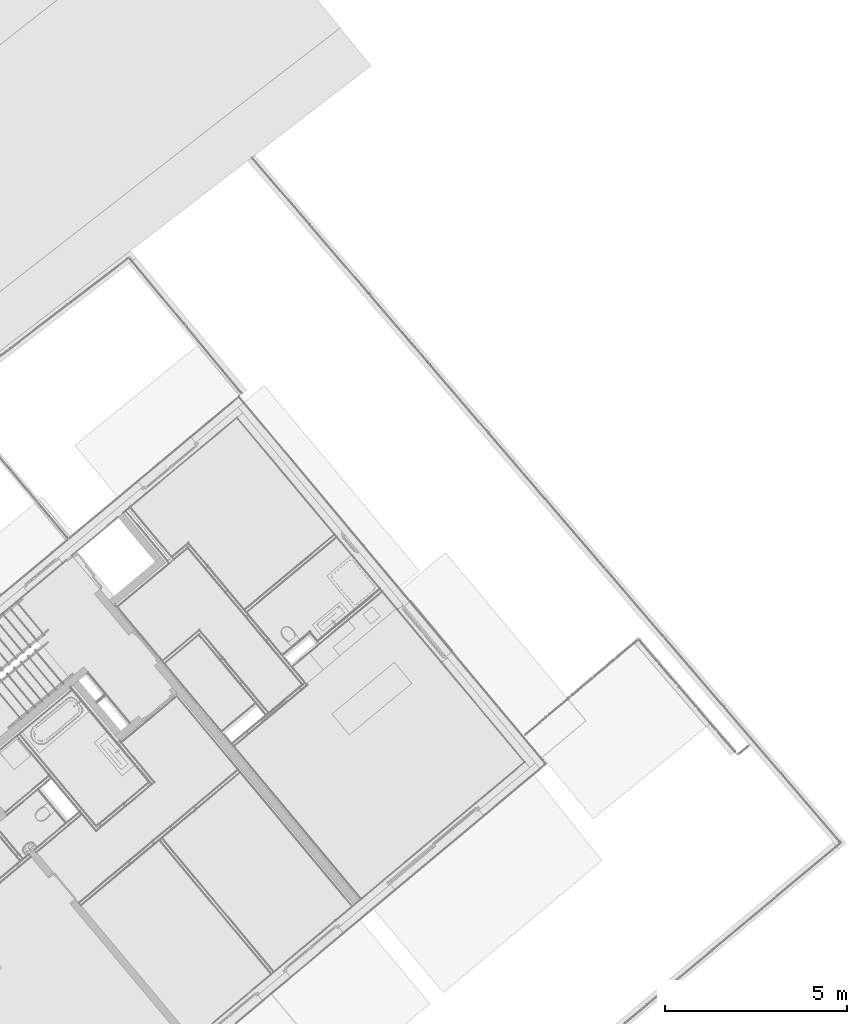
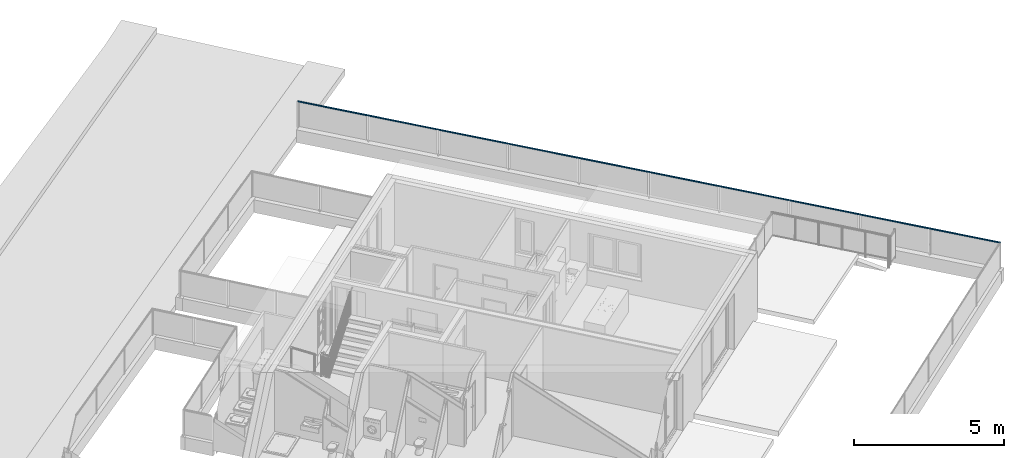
# One storey, part 53 of 75: 1 building element part, 1 element without a shape of its own.
"""IFC4 building model written with IfcOpenShell, lengths in metres."""

from ifc_helpers import new_model, entity, si_unit, converted_unit, derived_unit, direction, frame, origin_with_axes, place, context, subcontext, project, spatial, polygons, material, type_object, element, aggregate, save


model = new_model("IFC4")

# Units and contexts
model_context = context("Model", 3, precision=1e-05, world=origin_with_axes(), true_north=direction((0.0, 1.0)))
body_context = subcontext(model_context, "Body", "Model", "MODEL_VIEW")
ifc_project = project(units=[si_unit("LENGTHUNIT", "METRE"), si_unit("AREAUNIT", "SQUARE_METRE"), si_unit("VOLUMEUNIT", "CUBIC_METRE"), converted_unit("PLANEANGLEUNIT", "DEGREE", entity("IfcPlaneAngleMeasure", 0.0174532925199), si_unit("PLANEANGLEUNIT", "RADIAN"), dimensions=[0, 0, 0, 0, 0, 0, 0]), converted_unit("TIMEUNIT", "Year", entity("IfcTimeMeasure", 31556926.0), si_unit("TIMEUNIT", "SECOND"), dimensions=[0, 0, 1, 0, 0, 0, 0]), si_unit("MASSUNIT", "GRAM", prefix="KILO"), si_unit("THERMODYNAMICTEMPERATUREUNIT", "DEGREE_CELSIUS"), si_unit("LUMINOUSINTENSITYUNIT", "LUMEN"), si_unit("ENERGYUNIT", "JOULE", prefix="MEGA"), derived_unit("THERMALCONDUCTANCEUNIT", [(si_unit("POWERUNIT", "WATT"), 1), (si_unit("LENGTHUNIT", "METRE"), -1), (si_unit("THERMODYNAMICTEMPERATUREUNIT", "KELVIN"), -1)]), derived_unit("SPECIFICHEATCAPACITYUNIT", [(si_unit("ENERGYUNIT", "JOULE"), 1), (si_unit("MASSUNIT", "GRAM", prefix="KILO"), -1), (si_unit("THERMODYNAMICTEMPERATUREUNIT", "KELVIN"), -1)]), derived_unit("MASSDENSITYUNIT", [(si_unit("MASSUNIT", "GRAM", prefix="KILO"), 1), (si_unit("VOLUMEUNIT", "CUBIC_METRE"), -1)])], contexts=[model_context])

# Site, building, storey
site_placement = place(None, frame((-0.00153261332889, -0.00661245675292, 0.0), z_axis=(0.0, 0.0, 1.0), x_axis=(1.0, 0.0, 0.0)))
site = spatial("IfcSite", under=ifc_project, at=site_placement, Name="Gelände", CompositionType="ELEMENT")
building_placement = place(site_placement, origin_with_axes())
building = spatial("IfcBuilding", under=site, at=building_placement, Name="Gebäude", CompositionType="ELEMENT")
storey_placement = place(building_placement, frame((0.0, 0.0, -0.22), z_axis=(0.0, 0.0, 1.0), x_axis=(1.0, 0.0, 0.0)))
storey = spatial("IfcBuildingStorey", under=building, at=storey_placement, Name="EG", CompositionType="ELEMENT", Elevation=-0.22)

# Railing, building element part
railing_type = type_object("IfcRailingType", Name="Geländerart", PredefinedType="NOTDEFINED")
railing_placement = place(storey_placement, frame((-12.1608341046, 23.557810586, 0.523948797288), z_axis=(0.0, 0.0, 1.0), x_axis=(1.0, 0.0, 0.0)))
railing = element("IfcRailing", 1, at=railing_placement, inside=storey, type_object=railing_type, Name="Geländer - 001", PredefinedType="NOTDEFINED")
ifc_material = material(Name="Aluminium")
building_element_part_placement = place(railing_placement, origin_with_axes())
building_element_part = element("IfcBuildingElementPart", 2, at=building_element_part_placement, material=ifc_material, Name="Aluminium", PredefinedType="NOTDEFINED", context=body_context, shape_type="Tessellation", body=[
    polygons([(33.6810736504, -5.45007498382, 1.07636363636), (33.6814073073, -5.45010254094, 1.07634109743), (17.464627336, 13.4233680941, 1.07634109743), (17.4644490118, 13.4232148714, 1.07636363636), (33.6810736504, -5.45007498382, 1.07818181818), (33.6809859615, -5.45006774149, 1.07820551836), (33.6763066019, -5.44968126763, 1.0792391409), (33.6715595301, -5.44928920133, 1.07983921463), (33.6667808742, -5.44889452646, 1.08000117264), (33.6666903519, -5.44888705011, 1.08), (33.6665998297, -5.44887957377, 1.08000117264), (33.6618211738, -5.4484848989, 1.07983921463), (33.657074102, -5.4480928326, 1.0792391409), (33.6523947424, -5.44770635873, 1.07820551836), (33.6523070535, -5.4476991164, 1.07818181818), (33.6523070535, -5.4476991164, 1.07636363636), (33.6519733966, -5.44767155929, 1.07634109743), (33.6507378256, -5.44756951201, 1.0761115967), (33.6495588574, -5.44747213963, 1.07565956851), (33.6484723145, -5.44738240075, 1.07499874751), (33.6475112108, -5.44730302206, 1.0741492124), (33.6467047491, -5.44723641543, 1.07313677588), (33.6460774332, -5.44718460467, 1.07199220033), (33.6456483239, -5.44714916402, 1.07075026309), (33.6454304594, -5.44713117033, 1.06944869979), (33.6454304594, -5.44713117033, 1.06812705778), (33.6456483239, -5.44714916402, 1.06682549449), (33.6460774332, -5.44718460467, 1.06558355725), (33.6467047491, -5.44723641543, 1.06443898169), (33.6475112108, -5.44730302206, 1.06342654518), (33.6484723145, -5.44738240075, 1.06257701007), (33.6495588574, -5.44747213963, 1.06191618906), (33.6507378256, -5.44756951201, 1.06146416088), (33.6519733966, -5.44767155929, 1.06123466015), (33.6523070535, -5.4476991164, 1.06121212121), (33.6523070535, -5.4476991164, 1.05818181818), (33.6525326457, -5.44771774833, 1.05810011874), (33.6535835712, -5.44780454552, 1.05758389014), (33.6545334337, -5.44788299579, 1.05688326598), (33.6553533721, -5.44795071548, 1.05601953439), (33.656018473, -5.44800564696, 1.05501893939), (33.6565085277, -5.44804612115, 1.05391188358), (33.656808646, -5.44807090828, 1.05273200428), (33.656909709, -5.44807925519, 1.05151515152), (33.656808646, -5.44807090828, 1.05029829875), (33.6565085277, -5.44804612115, 1.04911841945), (33.656018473, -5.44800564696, 1.04801136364), (33.6553533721, -5.44795071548, 1.04701076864), (33.6545334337, -5.44788299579, 1.04614703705), (33.6535835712, -5.44780454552, 1.04544641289), (33.6525326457, -5.44771774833, 1.04493018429), (33.6523070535, -5.4476991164, 1.04484848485), (33.6523070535, -5.4476991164, 1.04), (33.6810736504, -5.45007498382, 1.04), (33.6810736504, -5.45007498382, 1.04484848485), (33.6808480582, -5.4500563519, 1.04493018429), (33.6797971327, -5.44996955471, 1.04544641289), (33.6788472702, -5.44989110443, 1.04614703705), (33.6780273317, -5.44982338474, 1.04701076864), (33.6773622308, -5.44976845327, 1.04801136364), (33.6768721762, -5.44972797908, 1.04911841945), (33.6765720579, -5.44970319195, 1.05029829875), (33.6764709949, -5.44969484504, 1.05151515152), (33.6765720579, -5.44970319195, 1.05273200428), (33.6768721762, -5.44972797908, 1.05391188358), (33.6773622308, -5.44976845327, 1.05501893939), (33.6780273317, -5.44982338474, 1.05601953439), (33.6788472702, -5.44989110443, 1.05688326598), (33.6797971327, -5.44996955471, 1.05758389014), (33.6808480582, -5.4500563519, 1.05810011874), (33.6810736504, -5.45007498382, 1.05818181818), (33.6810736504, -5.45007498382, 1.06121212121), (33.6814073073, -5.45010254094, 1.06123466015), (33.6826428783, -5.45020458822, 1.06146416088), (33.6838218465, -5.4503019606, 1.06191618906), (33.6849083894, -5.45039169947, 1.06257701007), (33.6858694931, -5.45047107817, 1.06342654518), (33.6866759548, -5.4505376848, 1.06443898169), (33.6873032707, -5.45058949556, 1.06558355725), (33.68773238, -5.45062493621, 1.06682549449), (33.6879502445, -5.4506429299, 1.06812705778), (33.6879502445, -5.4506429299, 1.06944869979), (33.68773238, -5.45062493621, 1.07075026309), (33.6873032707, -5.45058949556, 1.07199220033), (33.6866759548, -5.4505376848, 1.07313677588), (33.6858694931, -5.45047107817, 1.0741492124), (33.6849083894, -5.45039169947, 1.07499874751), (33.6838218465, -5.4503019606, 1.07565956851), (33.6826428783, -5.45020458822, 1.0761115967), (17.4652876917, 13.423935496, 1.0761115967), (17.4659177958, 13.4244769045, 1.07565956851), (17.4664985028, 13.4249758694, 1.07499874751), (17.4670121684, 13.4254172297, 1.0741492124), (17.4674431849, 13.425787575, 1.07313677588), (17.4677784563, 13.4260756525, 1.07199220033), (17.4680077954, 13.4262727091, 1.07075026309), (17.468124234, 13.4263727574, 1.06944869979), (17.468124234, 13.4263727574, 1.06812705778), (17.4680077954, 13.4262727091, 1.06682549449), (17.4677784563, 13.4260756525, 1.06558355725), (17.4674431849, 13.425787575, 1.06443898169), (17.4670121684, 13.4254172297, 1.06342654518), (17.4664985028, 13.4249758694, 1.06257701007), (17.4659177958, 13.4244769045, 1.06191618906), (17.4652876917, 13.423935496, 1.06146416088), (17.464627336, 13.4233680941, 1.06123466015), (17.4644490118, 13.4232148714, 1.06121212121), (17.4644490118, 13.4232148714, 1.05818181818), (17.4643284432, 13.4231112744, 1.05810011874), (17.463766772, 13.4226286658, 1.05758389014), (17.4632591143, 13.4221924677, 1.05688326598), (17.4628208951, 13.4218159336, 1.05601953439), (17.4624654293, 13.4215105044, 1.05501893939), (17.4622035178, 13.4212854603, 1.05391188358), (17.4620431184, 13.4211476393, 1.05273200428), (17.4619891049, 13.4211012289, 1.05151515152), (17.4620431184, 13.4211476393, 1.05029829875), (17.4622035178, 13.4212854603, 1.04911841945), (17.4624654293, 13.4215105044, 1.04801136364), (17.4628208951, 13.4218159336, 1.04701076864), (17.4632591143, 13.4221924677, 1.04614703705), (17.463766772, 13.4226286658, 1.04544641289), (17.4643284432, 13.4231112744, 1.04493018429), (17.4644490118, 13.4232148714, 1.04484848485), (17.4644490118, 13.4232148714, 1.04), (17.4490745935, 13.4100046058, 1.04), (17.4490745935, 13.4100046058, 1.04484848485), (17.4491951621, 13.4101082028, 1.04493018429), (17.4497568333, 13.4105908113, 1.04544641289), (17.4502644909, 13.4110270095, 1.04614703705), (17.4507027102, 13.4114035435, 1.04701076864), (17.4510581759, 13.4117089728, 1.04801136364), (17.4513200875, 13.4119340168, 1.04911841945), (17.4514804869, 13.4120718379, 1.05029829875), (17.4515345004, 13.4121182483, 1.05151515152), (17.4514804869, 13.4120718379, 1.05273200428), (17.4513200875, 13.4119340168, 1.05391188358), (17.4510581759, 13.4117089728, 1.05501893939), (17.4507027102, 13.4114035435, 1.05601953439), (17.4502644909, 13.4110270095, 1.05688326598), (17.4497568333, 13.4105908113, 1.05758389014), (17.4491951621, 13.4101082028, 1.05810011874), (17.4490745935, 13.4100046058, 1.05818181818), (17.4490745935, 13.4100046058, 1.06121212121), (17.4488962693, 13.4098513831, 1.06123466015), (17.4482359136, 13.4092839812, 1.06146416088), (17.4476058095, 13.4087425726, 1.06191618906), (17.4470251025, 13.4082436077, 1.06257701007), (17.4465114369, 13.4078022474, 1.06342654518), (17.4460804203, 13.4074319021, 1.06443898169), (17.445745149, 13.4071438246, 1.06558355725), (17.4455158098, 13.406946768, 1.06682549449), (17.4453993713, 13.4068467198, 1.06812705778), (17.4453993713, 13.4068467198, 1.06944869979), (17.4455158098, 13.406946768, 1.07075026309), (17.445745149, 13.4071438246, 1.07199220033), (17.4460804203, 13.4074319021, 1.07313677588), (17.4465114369, 13.4078022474, 1.0741492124), (17.4470251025, 13.4082436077, 1.07499874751), (17.4476058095, 13.4087425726, 1.07565956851), (17.4482359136, 13.4092839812, 1.0761115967), (17.4488962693, 13.4098513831, 1.07634109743), (17.4490745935, 13.4100046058, 1.07636363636), (17.4490745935, 13.4100046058, 1.07818181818), (17.4491214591, 13.4100448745, 1.07820551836), (17.4516223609, 13.4121937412, 1.0792391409), (17.4541594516, 13.4143737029, 1.07983921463), (17.4567134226, 13.4165681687, 1.08000117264), (17.4567618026, 13.4166097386, 1.08), (17.4568101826, 13.4166513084, 1.08000117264), (17.4593641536, 13.4188457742, 1.07983921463), (17.4619012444, 13.4210257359, 1.0792391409), (17.4644021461, 13.4231746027, 1.07820551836), (17.4644490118, 13.4232148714, 1.07818181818)], [[[1, 2, 3, 4]], [[1, 5, 6, 7, 8, 9, 10, 11, 12, 13, 14, 15, 16, 17, 18, 19, 20, 21, 22, 23, 24, 25, 26, 27, 28, 29, 30, 31, 32, 33, 34, 35, 36, 37, 38, 39, 40, 41, 42, 43, 44, 45, 46, 47, 48, 49, 50, 51, 52, 53, 54, 55, 56, 57, 58, 59, 60, 61, 62, 63, 64, 65, 66, 67, 68, 69, 70, 71, 72, 73, 74, 75, 76, 77, 78, 79, 80, 81, 82, 83, 84, 85, 86, 87, 88, 89, 2]], [[2, 89, 90, 3]], [[4, 3, 90, 91, 92, 93, 94, 95, 96, 97, 98, 99, 100, 101, 102, 103, 104, 105, 106, 107, 108, 109, 110, 111, 112, 113, 114, 115, 116, 117, 118, 119, 120, 121, 122, 123, 124, 125, 126, 127, 128, 129, 130, 131, 132, 133, 134, 135, 136, 137, 138, 139, 140, 141, 142, 143, 144, 145, 146, 147, 148, 149, 150, 151, 152, 153, 154, 155, 156, 157, 158, 159, 160, 161, 162, 163, 164, 165, 166, 167, 168, 169, 170, 171, 172, 173, 174]], [[5, 1, 4, 174]], [[6, 5, 174, 173]], [[7, 6, 173, 172]], [[8, 7, 172, 171]], [[9, 8, 171, 170]], [[10, 9, 170, 169]], [[11, 10, 169, 168]], [[12, 11, 168, 167]], [[13, 12, 167, 166]], [[14, 13, 166, 165]], [[15, 14, 165, 164]], [[16, 15, 164, 163]], [[17, 16, 163, 162]], [[18, 17, 162, 161]], [[19, 18, 161, 160]], [[20, 19, 160, 159]], [[21, 20, 159, 158]], [[22, 21, 158, 157]], [[23, 22, 157, 156]], [[24, 23, 156, 155]], [[25, 24, 155, 154]], [[26, 25, 154, 153]], [[27, 26, 153, 152]], [[28, 27, 152, 151]], [[29, 28, 151, 150]], [[30, 29, 150, 149]], [[31, 30, 149, 148]], [[32, 31, 148, 147]], [[33, 32, 147, 146]], [[34, 33, 146, 145]], [[35, 34, 145, 144]], [[36, 35, 144, 143]], [[37, 36, 143, 142]], [[38, 37, 142, 141]], [[39, 38, 141, 140]], [[40, 39, 140, 139]], [[41, 40, 139, 138]], [[42, 41, 138, 137]], [[43, 42, 137, 136]], [[44, 43, 136, 135]], [[45, 44, 135, 134]], [[46, 45, 134, 133]], [[47, 46, 133, 132]], [[48, 47, 132, 131]], [[49, 48, 131, 130]], [[50, 49, 130, 129]], [[51, 50, 129, 128]], [[52, 51, 128, 127]], [[53, 52, 127, 126]], [[54, 53, 126, 125]], [[55, 54, 125, 124]], [[56, 55, 124, 123]], [[57, 56, 123, 122]], [[58, 57, 122, 121]], [[59, 58, 121, 120]], [[60, 59, 120, 119]], [[61, 60, 119, 118]], [[62, 61, 118, 117]], [[63, 62, 117, 116]], [[64, 63, 116, 115]], [[65, 64, 115, 114]], [[66, 65, 114, 113]], [[67, 66, 113, 112]], [[68, 67, 112, 111]], [[69, 68, 111, 110]], [[70, 69, 110, 109]], [[71, 70, 109, 108]], [[72, 71, 108, 107]], [[73, 72, 107, 106]], [[74, 73, 106, 105]], [[75, 74, 105, 104]], [[76, 75, 104, 103]], [[77, 76, 103, 102]], [[78, 77, 102, 101]], [[79, 78, 101, 100]], [[80, 79, 100, 99]], [[81, 80, 99, 98]], [[82, 81, 98, 97]], [[83, 82, 97, 96]], [[84, 83, 96, 95]], [[85, 84, 95, 94]], [[86, 85, 94, 93]], [[87, 86, 93, 92]], [[88, 87, 92, 91]], [[89, 88, 91, 90]]], closed=True),
])
aggregate(railing, [building_element_part])

save(model, "model.ifc")
